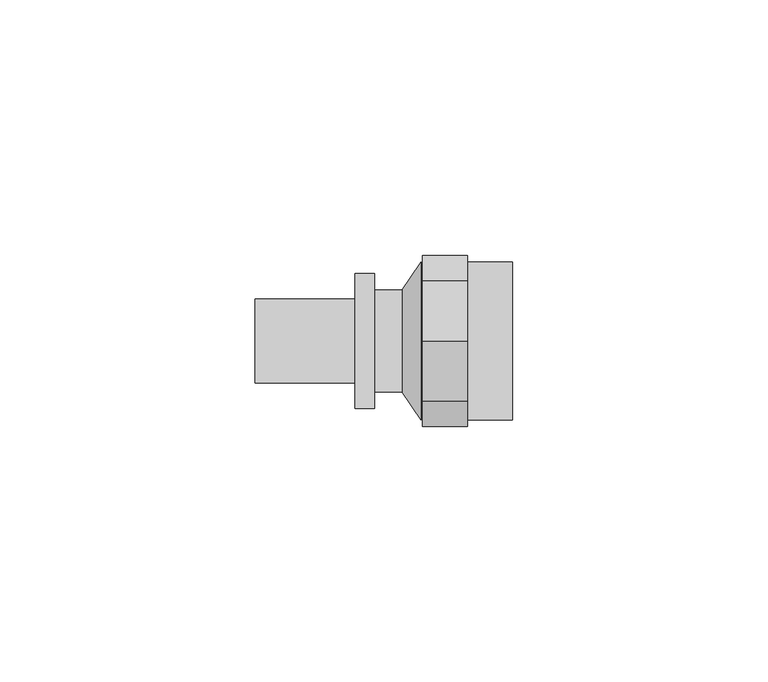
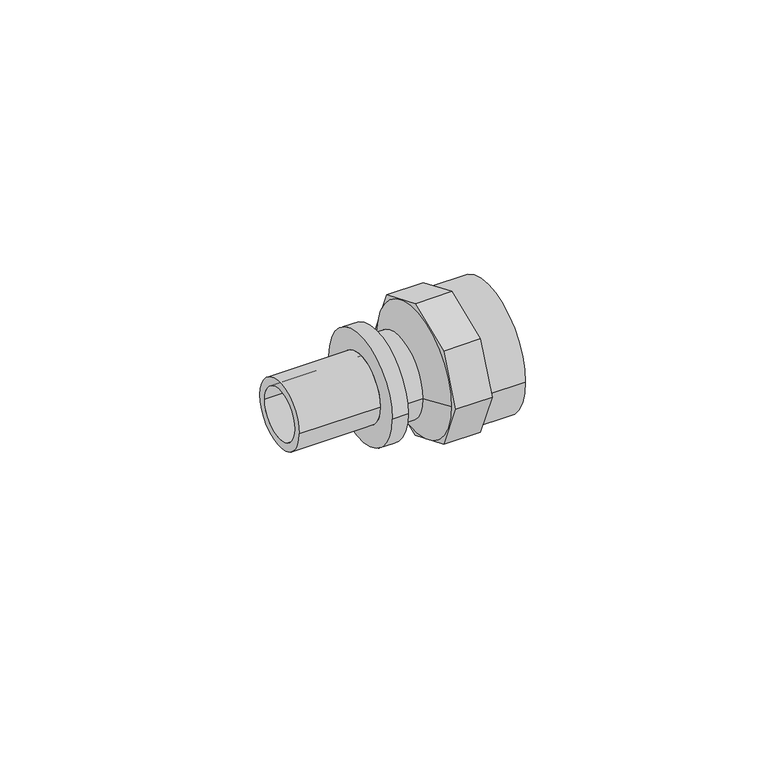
"""IFC4 building model written with IfcOpenShell, lengths in millimetres: pipe fitting geometry, REHAU_RAUTITAN_Adaptor_RX+, with internal thread : REHAU_RAUTITAN_Adaptor_RX+, with internal thread."""

from ifc_helpers import new_model, si_unit, point, frame, origin, origin_2d, place, context, project, spatial, polyline, circle_curve, trimmed, segment, composite_curve, outline, extrude, source, transform, mapped, element, save
from ifc_brep_helpers import plane_surface, cylinder_surface, revolved_surface, advanced_brep


def pipe_fitting_ea2f6d66(model_context):
    return source(origin(), model_context, "Body", "SolidModel", [
        extrude(outline(polyline([(-11.8631864, 11.8631864), (0.0, 16.7770791), (11.8631864, 11.8631864), (16.7770791, 0.0), (11.8631864, -11.8631864), (0.0, -16.7770791), (-11.8631864, -11.8631864), (-16.7770791, 0.0), (-11.8631864, 11.8631864)]), holes=[composite_curve([segment(trimmed(circle_curve(origin_2d(), 9.5), [point((-9.5, 0.0))], [point((9.5, 0.0))], True, "CARTESIAN"), True, "CONTINUOUS"), segment(trimmed(circle_curve(origin_2d(), 9.5), [point((9.5, 0.0))], [point((-9.5, 0.0))], True, "CARTESIAN"), True, "CONTINUOUS")], self_intersect=False)]), frame((-4.41, 0.0, 0.0), z_axis=(1.0, 0.0, 0.0), x_axis=(0.0, 1.0, 0.0)), (0.0, 0.0, 1.0), 8.82),
        extrude(outline(composite_curve([segment(trimmed(circle_curve(origin_2d(), 15.5), [point((-15.5, 0.0))], [point((15.5, 0.0))], False, "CARTESIAN"), True, "CONTINUOUS"), segment(trimmed(circle_curve(origin_2d(), 15.5), [point((15.5, 0.0))], [point((-15.5, 0.0))], False, "CARTESIAN"), True, "CONTINUOUS")], self_intersect=False), holes=[composite_curve([segment(trimmed(circle_curve(origin_2d(), 13.005), [point((-13.005, 0.0))], [point((13.005, 0.0))], True, "CARTESIAN"), True, "CONTINUOUS"), segment(trimmed(circle_curve(origin_2d(), 13.005), [point((13.005, 0.0))], [point((-13.005, 0.0))], True, "CARTESIAN"), True, "CONTINUOUS")], self_intersect=False)]), frame((4.41, 0.0, 0.0), z_axis=(1.0, 0.0, 0.0), x_axis=(0.0, 1.0, 0.0)), (0.0, 0.0, 1.0), 8.79),
        advanced_brep(
        [(-8.38, 10.0, 0.0), (-8.38, -10.0, 0.0), (-13.77, -10.0, 0.0), (-13.77, 10.0, 0.0), (-4.62, 15.5, 0.0), (-4.62, -15.5, 0.0), (-8.38, 7.5, 0.0), (-8.38, -7.5, 0.0), (-4.62, -13.005, 0.0), (-4.62, 13.005, 0.0), (-37.1, 6.25, 0.0), (-37.1, -6.25, 0.0), (-13.77, -6.25, 0.0), (-13.77, 6.25, 0.0), (-17.6, 8.225, 0.0), (-17.6, -8.225, 0.0), (-37.1, -8.225, 0.0), (-37.1, 8.225, 0.0), (-13.77, 13.25, 0.0), (-13.77, -13.25, 0.0), (-17.6, -13.25, 0.0), (-17.6, 13.25, 0.0)],
        [
            (0, 1, circle_curve(frame((-8.38, 0.0, 0.0), z_axis=(-1.0, 0.0, 0.0), x_axis=(0.0, -1.0, 0.0)), 10.0)),
            (1, 2),
            (2, 3, circle_curve(frame((-13.77, 0.0, 0.0), z_axis=(1.0, 0.0, 0.0), x_axis=(0.0, -1.0, 0.0)), 10.0)),
            (3, 0),
            (4, 5, circle_curve(frame((-4.62, 0.0, 0.0), z_axis=(-1.0, 0.0, 0.0), x_axis=(0.0, -1.0, 0.0)), 15.5)),
            (5, 1),
            (0, 4),
            (6, 7, circle_curve(frame((-8.38, 0.0, 0.0), z_axis=(-1.0, 0.0, 0.0), x_axis=(0.0, -1.0, 0.0)), 7.5)),
            (7, 8),
            (8, 9, circle_curve(frame((-4.62, 0.0, 0.0), z_axis=(1.0, 0.0, 0.0), x_axis=(0.0, -1.0, 0.0)), 13.005)),
            (9, 6),
            (10, 11, circle_curve(frame((-37.1, 0.0, 0.0), z_axis=(-1.0, 0.0, 0.0), x_axis=(0.0, -1.0, 0.0)), 6.25)),
            (11, 12),
            (12, 13, circle_curve(frame((-13.77, 0.0, 0.0), z_axis=(1.0, 0.0, 0.0), x_axis=(0.0, -1.0, 0.0)), 6.25)),
            (13, 10),
            (14, 15, circle_curve(frame((-17.6, 0.0, 0.0), z_axis=(-1.0, 0.0, 0.0), x_axis=(0.0, -1.0, 0.0)), 8.225)),
            (15, 16),
            (16, 17, circle_curve(frame((-37.1, 0.0, 0.0), z_axis=(1.0, 0.0, 0.0), x_axis=(0.0, -1.0, 0.0)), 8.225)),
            (17, 14),
            (18, 19, circle_curve(frame((-13.77, 0.0, 0.0), z_axis=(-1.0, 0.0, 0.0), x_axis=(0.0, -1.0, 0.0)), 13.25)),
            (19, 20),
            (20, 21, circle_curve(frame((-17.6, 0.0, 0.0), z_axis=(1.0, 0.0, 0.0), x_axis=(0.0, -1.0, 0.0)), 13.25)),
            (21, 18),
            (18, 19, circle_curve(frame((-13.77, 0.0, 0.0), z_axis=(1.0, 0.0, 0.0), x_axis=(0.0, 1.0, 0.0)), 13.25)),
            (2, 3, circle_curve(frame((-13.77, 0.0, 0.0), z_axis=(-1.0, 0.0, 0.0), x_axis=(0.0, 1.0, 0.0)), 10.0)),
            (1, 0, circle_curve(frame((-8.38, 0.0, 0.0), z_axis=(-1.0, 0.0, 0.0), x_axis=(0.0, 1.0, 0.0)), 10.0)),
            (5, 4, circle_curve(frame((-4.62, 0.0, 0.0), z_axis=(-1.0, 0.0, 0.0), x_axis=(0.0, 1.0, 0.0)), 15.5)),
            (7, 6, circle_curve(frame((-8.38, 0.0, 0.0), z_axis=(-1.0, 0.0, 0.0), x_axis=(0.0, 1.0, 0.0)), 7.5)),
            (9, 8, circle_curve(frame((-4.62, 0.0, 0.0), z_axis=(1.0, 0.0, 0.0), x_axis=(0.0, 1.0, 0.0)), 13.005)),
            (11, 10, circle_curve(frame((-37.1, 0.0, 0.0), z_axis=(-1.0, 0.0, 0.0), x_axis=(0.0, 1.0, 0.0)), 6.25)),
            (13, 12, circle_curve(frame((-13.77, 0.0, 0.0), z_axis=(1.0, 0.0, 0.0), x_axis=(0.0, 1.0, 0.0)), 6.25)),
            (16, 17, circle_curve(frame((-37.1, 0.0, 0.0), z_axis=(-1.0, 0.0, 0.0), x_axis=(0.0, 1.0, 0.0)), 8.225)),
            (15, 14, circle_curve(frame((-17.6, 0.0, 0.0), z_axis=(-1.0, 0.0, 0.0), x_axis=(0.0, 1.0, 0.0)), 8.225)),
            (20, 21, circle_curve(frame((-17.6, 0.0, 0.0), z_axis=(-1.0, 0.0, 0.0), x_axis=(0.0, 1.0, 0.0)), 13.25)),
            (12, 7),
            (6, 13),
        ],
        [
            cylinder_surface(frame((0.0, 0.0, 0.0), z_axis=(1.0, 0.0, 0.0), x_axis=(0.0, -1.0, 0.0)), 10.0),
            revolved_surface(polyline([(-8.38, -10.0, 0.0), (-4.62, -15.5, 0.0)]), (0.0, 0.0, 0.0), (1.0, 0.0, 0.0)),
            revolved_surface(polyline([(-4.62, -13.005, 0.0), (-8.38, -7.5, 0.0)]), (0.0, 0.0, 0.0), (1.0, 0.0, 0.0)),
            revolved_surface(polyline([(-13.77, -6.25, 0.0), (-37.1, -6.25, 0.0)]), (0.0, 0.0, 0.0), (1.0, 0.0, 0.0)),
            cylinder_surface(frame((0.0, 0.0, 0.0), z_axis=(1.0, 0.0, 0.0), x_axis=(0.0, -1.0, 0.0)), 8.225),
            cylinder_surface(frame((0.0, 0.0, 0.0), z_axis=(1.0, 0.0, 0.0), x_axis=(0.0, -1.0, 0.0)), 13.25),
            plane_surface(frame((-13.77, 0.0, 0.0), z_axis=(1.0, 0.0, 0.0), x_axis=(0.0, 1.0, 0.0))),
            cylinder_surface(frame((0.0, 0.0, 0.0), z_axis=(1.0, 0.0, 0.0), x_axis=(0.0, 1.0, 0.0)), 10.0),
            revolved_surface(polyline([(-8.38, 10.0, 0.0), (-4.62, 15.5, 0.0)]), (0.0, 0.0, 0.0), (1.0, 0.0, 0.0)),
            revolved_surface(polyline([(-4.62, 13.005, 0.0), (-8.38, 7.5, 0.0)]), (0.0, 0.0, 0.0), (1.0, 0.0, 0.0)),
            revolved_surface(polyline([(-13.77, 6.25, 0.0), (-37.1, 6.25, 0.0)]), (0.0, 0.0, 0.0), (1.0, 0.0, 0.0)),
            plane_surface(frame((-37.1, 0.0, 0.0), z_axis=(-1.0, 0.0, 0.0), x_axis=(0.0, 1.0, 0.0))),
            cylinder_surface(frame((0.0, 0.0, 0.0), z_axis=(1.0, 0.0, 0.0), x_axis=(0.0, 1.0, 0.0)), 8.225),
            plane_surface(frame((-17.6, 0.0, 0.0), z_axis=(-1.0, 0.0, 0.0), x_axis=(0.0, 1.0, 0.0))),
            cylinder_surface(frame((0.0, 0.0, 0.0), z_axis=(1.0, 0.0, 0.0), x_axis=(0.0, 1.0, 0.0)), 13.25),
            revolved_surface(polyline([(-8.38, -7.5, 0.0), (-13.77, -6.25, 0.0)]), (0.0, 0.0, 0.0), (1.0, 0.0, 0.0)),
            revolved_surface(polyline([(-8.38, 7.5, 0.0), (-13.77, 6.25, 0.0)]), (0.0, 0.0, 0.0), (1.0, 0.0, 0.0)),
            plane_surface(frame((-4.62, 0.0, 0.0), z_axis=(1.0, 0.0, 0.0), x_axis=(0.0, 1.0, 0.0))),
        ],
        [
            (0, [[1, 2, 3, 4]]),
            (1, [[5, 6, -1, 7]]),
            (2, [[8, 9, 10, 11]]),
            (3, [[12, 13, 14, 15]]),
            (4, [[16, 17, 18, 19]]),
            (5, [[20, 21, 22, 23]]),
            (6, [[24, -20], [25, -3]]),
            (7, [[26, -4, -25, -2]]),
            (8, [[27, -7, -26, -6]]),
            (9, [[28, -11, 29, -9]]),
            (10, [[30, -15, 31, -13]]),
            (11, [[32, -18], [-30, -12]]),
            (12, [[33, -19, -32, -17]]),
            (13, [[34, -22], [-33, -16]]),
            (14, [[-24, -23, -34, -21]]),
            (15, [[-14, 35, -8, 36]]),
            (16, [[-31, -36, -28, -35]]),
            (17, [[-27, -5], [-29, -10]]),
        ],
    ),
    ])


if __name__ == "__main__":
    model = new_model("IFC4")
    model_context = context("Model", 3, world=origin())
    ifc_project = project(units=[si_unit("LENGTHUNIT", "METRE", prefix="MILLI")], contexts=[model_context])
    site = spatial("IfcSite", under=ifc_project)
    building = spatial("IfcBuilding", under=site)
    placement = place(None, origin())
    pipe_fitting_shape = pipe_fitting_ea2f6d66(model_context)
    element("IfcPipeFitting", 1, ObjectType="REHAU_RAUTITAN_Adaptor_RX+, with internal thread : REHAU_RAUTITAN_Adaptor_RX+, with internal thread", at=placement, inside=building, context=model_context, shape_type="MappedRepresentation", body=[
        mapped(pipe_fitting_shape, transform((0.0, 0.0, 0.0), x_axis=(1.0, 0.0, 0.0), y_axis=(0.0, 1.0, 0.0), z_axis=(0.0, 0.0, 1.0))),
    ])
    save(model, "model.ifc")
